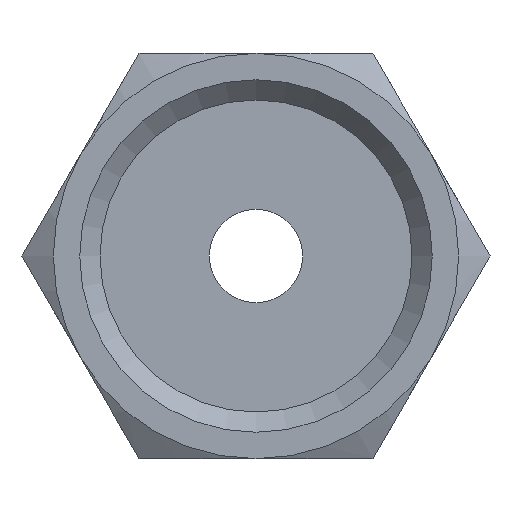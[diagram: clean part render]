
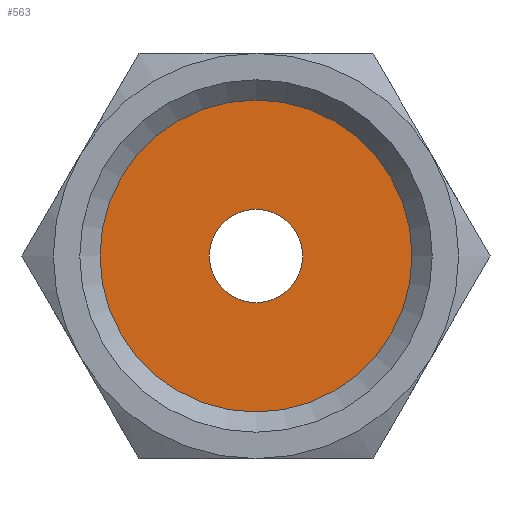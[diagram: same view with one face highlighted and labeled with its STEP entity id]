
A CAD part, front view. The second image highlights one B-rep face of the part: STEP entity #563.
In plain terms, the highlighted planar face has unit normal (0, -1, 0).
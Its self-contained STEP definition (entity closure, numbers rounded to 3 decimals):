
#55=FACE_BOUND('',#173,.T.);
#69=PLANE('',#645);
#134=FACE_OUTER_BOUND('',#172,.T.);
#172=EDGE_LOOP('',(#487,#488));
#173=EDGE_LOOP('',(#489,#490));
#206=CIRCLE('',#618,7.698);
#207=CIRCLE('',#619,7.698);
#214=CIRCLE('',#646,2.3);
#215=CIRCLE('',#647,2.3);
#250=VERTEX_POINT('',#895);
#251=VERTEX_POINT('',#897);
#270=VERTEX_POINT('',#1022);
#271=VERTEX_POINT('',#1023);
#310=EDGE_CURVE('',#251,#250,#206,.T.);
#311=EDGE_CURVE('',#250,#251,#207,.T.);
#348=EDGE_CURVE('',#270,#271,#214,.T.);
#349=EDGE_CURVE('',#271,#270,#215,.T.);
#487=ORIENTED_EDGE('',*,*,#310,.T.);
#488=ORIENTED_EDGE('',*,*,#311,.T.);
#489=ORIENTED_EDGE('',*,*,#348,.F.);
#490=ORIENTED_EDGE('',*,*,#349,.F.);
#563=ADVANCED_FACE('',(#134,#55),#69,.T.);
#618=AXIS2_PLACEMENT_3D('',#898,#728,#729);
#619=AXIS2_PLACEMENT_3D('',#899,#730,#731);
#645=AXIS2_PLACEMENT_3D('',#1021,#788,#789);
#646=AXIS2_PLACEMENT_3D('',#1024,#790,#791);
#647=AXIS2_PLACEMENT_3D('',#1025,#792,#793);
#728=DIRECTION('center_axis',(0.,-1.,0.));
#729=DIRECTION('ref_axis',(1.,0.,0.));
#730=DIRECTION('center_axis',(0.,-1.,0.));
#731=DIRECTION('ref_axis',(1.,0.,0.));
#788=DIRECTION('center_axis',(0.,-1.,0.));
#789=DIRECTION('ref_axis',(0.,0.,-1.));
#790=DIRECTION('center_axis',(0.,-1.,0.));
#791=DIRECTION('ref_axis',(1.,0.,0.));
#792=DIRECTION('center_axis',(0.,-1.,0.));
#793=DIRECTION('ref_axis',(1.,0.,0.));
#895=CARTESIAN_POINT('',(-7.698,12.,0.));
#897=CARTESIAN_POINT('',(7.698,12.,0.));
#898=CARTESIAN_POINT('Origin',(0.,12.,0.));
#899=CARTESIAN_POINT('Origin',(0.,12.,0.));
#1021=CARTESIAN_POINT('Origin',(2.3,12.,0.));
#1022=CARTESIAN_POINT('',(2.3,12.,0.));
#1023=CARTESIAN_POINT('',(-2.3,12.,0.));
#1024=CARTESIAN_POINT('Origin',(0.,12.,0.));
#1025=CARTESIAN_POINT('Origin',(0.,12.,0.));
